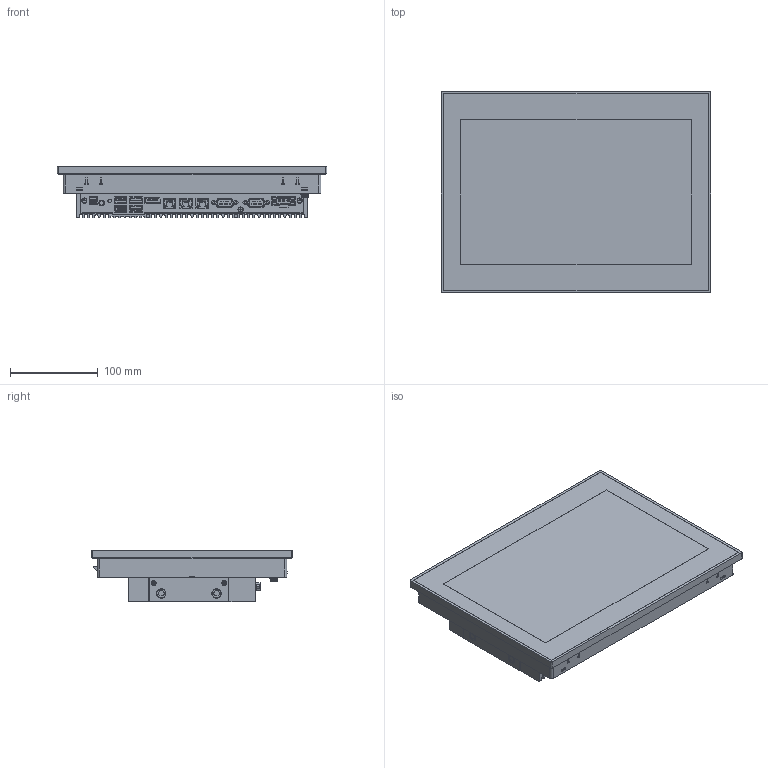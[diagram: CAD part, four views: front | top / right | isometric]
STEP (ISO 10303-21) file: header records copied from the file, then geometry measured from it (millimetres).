
FILE_DESCRIPTION((''),'2;1');
FILE_NAME('1749724852250_ASM','2025-06-12T16:11:17',('SESA815363'),('Schneider-Electric'),'CREO PARAMETRIC BY PTC INC, 2022484','CREO PARAMETRIC BY PTC INC, 2022484','');
FILE_SCHEMA(('AP242_MANAGED_MODEL_BASED_3D_ENGINEERING_MIM_LF { 1 0 10303 442 1 1 4 }'));
Products named in the file (10): EMPTYNODE_1749724852345_ASM; M-COVER-SERVICE-BOX-THOR-3D; ANTENNA_WIFI_MYLAR_1_1_2_1; SCREW; M-COVER-SERVICE-BOX-THOR-3D_ASM; BOX-ASSY-THOR-3D; BOX-ASSY-THOR-3D_ASM; SYSTEM-THOR-121-3D; SYSTEM-THOR-121-3D_ASM; 1749724852250_ASM
Assembly tree (11 placements, depth 3):
  1749724852250_ASM
    EMPTYNODE_1749724852345_ASM
    M-COVER-SERVICE-BOX-THOR-3D_ASM
      M-COVER-SERVICE-BOX-THOR-3D
      ANTENNA_WIFI_MYLAR_1_1_2_1  x2
      SCREW  x2
    BOX-ASSY-THOR-3D_ASM
      BOX-ASSY-THOR-3D
    SYSTEM-THOR-121-3D_ASM
      SYSTEM-THOR-121-3D
Bounding box: 307.4 x 229.4 x 58.8 mm (x, y, z)
Volume: 2670186.9 mm3; surface area: 373889.4 mm2
Topology: 7 solids, 7 shells, 2005 faces, 5446 edges, 3621 vertices
Faces by surface type: plane 1553, cylinder 450, revolution 2
Entity records: 92588 total; most frequent: CARTESIAN_POINT 11302, ORIENTED_EDGE 10784, DIRECTION 10226, PRESENTATION_STYLE_ASSIGNMENT 6524, STYLED_ITEM 5411, CURVE_STYLE 5394, EDGE_CURVE 5392, VECTOR 4434
